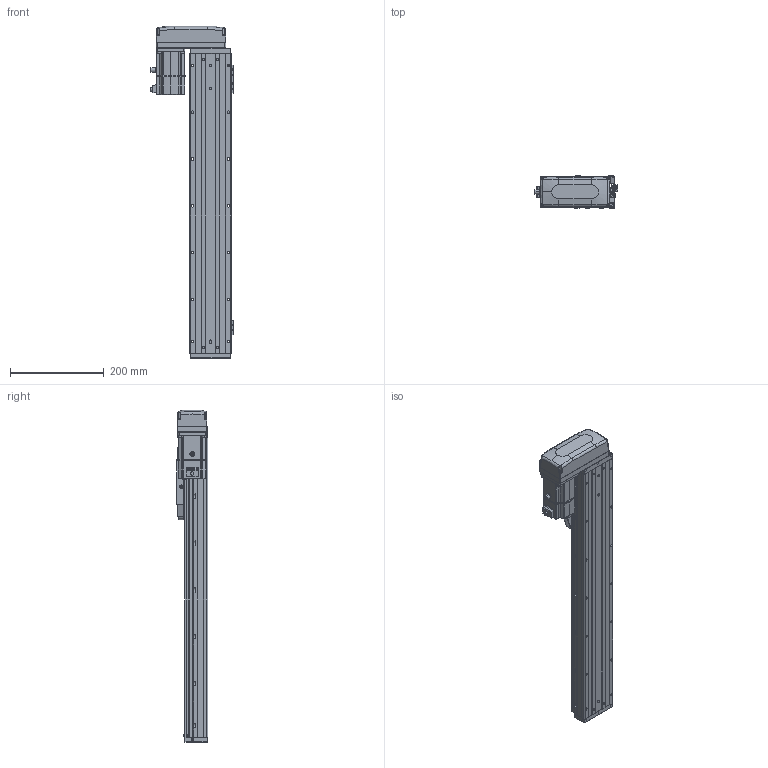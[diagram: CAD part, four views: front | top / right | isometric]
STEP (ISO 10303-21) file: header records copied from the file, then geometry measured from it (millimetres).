
FILE_DESCRIPTION (( 'STEP AP203' ), '1' );
FILE_NAME ('CTHA86-450-BR-M20-C4L.step', '2022-04-26T00:59:58', ( '微软用户' ), ( '微软中国' ), 'SwSTEP 2.0', 'SolidWorks 2020', '' );
FILE_SCHEMA (( 'CONFIG_CONTROL_DESIGN' ));
Length unit declared in the file: millimetre
Products named in the file (21): CTHA60-021; _X2_4E0983F1_X0_200W_1; CTHA86-450-BR-M20-C4L; KTHA86-001_640; GBT77-2000 M3×3; CTHA86-002; KTHA86-004; GBT 70.1-M3×20; CTHA86-031; KTHA86-005; GBT70.1 M5℅16; CTHA86-030; GB¨uT 70.2-M3¡Á5_M3¡Á6; GBT 70.1-M3×16; GBT 70.3-M3℅6; EE_SX911P_R; GBT 70.1-M3℅6; CTHA86-015-1_CTHA86-015-2; CTHA60-017; CTHA60-016; CTHA86-033
Assembly tree (66 placements, depth 2):
  CTHA86-450-BR-M20-C4L
    KTHA86-001_640
    KTHA86-004
    KTHA86-005
    GB¨uT 70.2-M3¡Á5_M3¡Á6  x10
    EE_SX911P_R  x3
    CTHA60-017  x3
    CTHA60-021  x2
    GBT77-2000 M3×3  x6
    GBT 70.1-M3×20
    GBT70.1 M5℅16  x14
    GBT 70.1-M3×16  x5
    GBT 70.1-M3℅6  x6
    CTHA60-016  x2
    _X2_4E0983F1_X0_200W_1
    CTHA86-002
    CTHA86-031
    CTHA86-030  x2
    GBT 70.3-M3℅6  x4
    CTHA86-015-1_CTHA86-015-2
    CTHA86-033
Bounding box: 178.52 x 68 x 709 mm (x, y, z)
Volume: 2968493.7 mm3; surface area: 521179.7 mm2
Topology: 68 solids, 68 shells, 2746 faces, 6540 edges, 4024 vertices
Faces by surface type: plane 1439, cylinder 711, cone 365, torus 132, bspline 75, sphere 24
Entity records: 47789 total; most frequent: CARTESIAN_POINT 9283, DIRECTION 7409, ORIENTED_EDGE 7180, EDGE_CURVE 3590, AXIS2_PLACEMENT_3D 2534, LINE 2341, VECTOR 2341, VERTEX_POINT 2256
